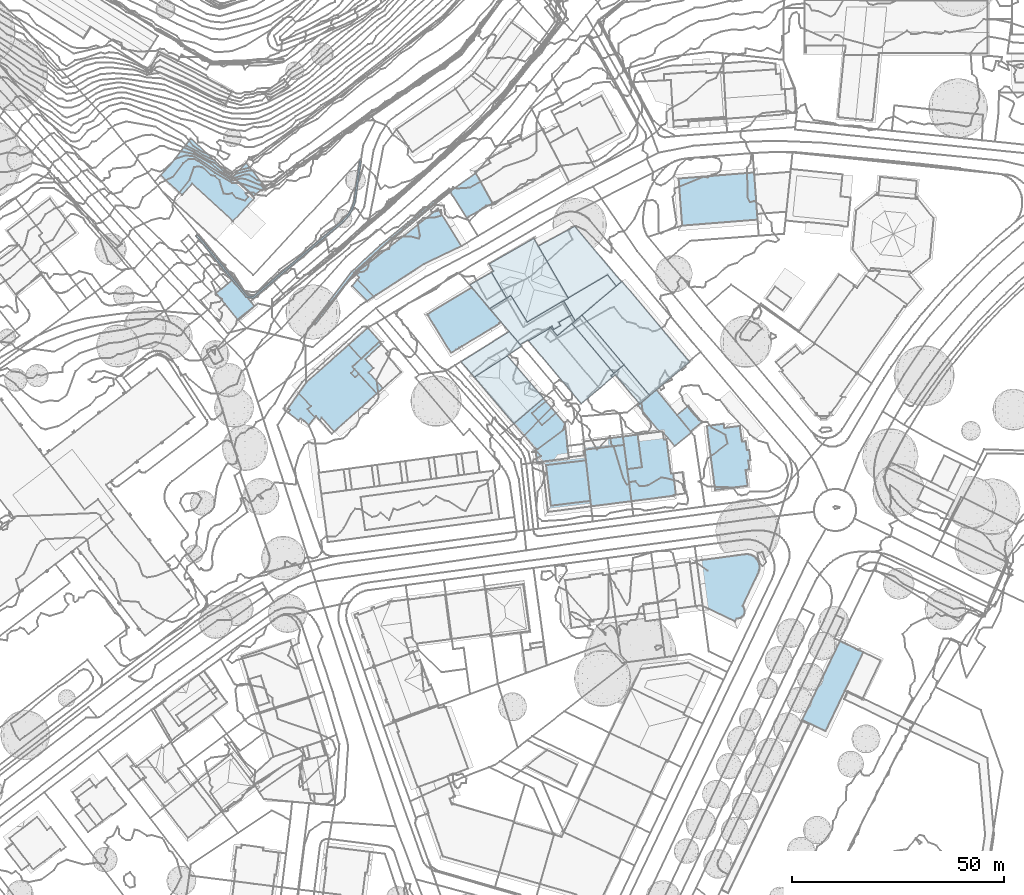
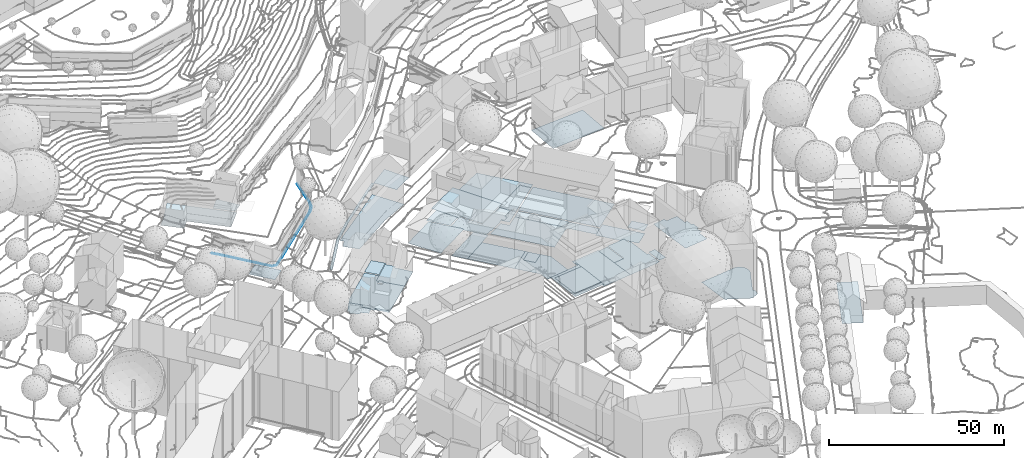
# Not in any storey, part 14 of 477: 22 footings.
"""IFC4 building model written with IfcOpenShell, lengths in metres."""

import ifcopenshell
import ifcopenshell.guid

model = None  # the IFC model being written
_history = None  # IfcOwnerHistory: only IFC2X3 demands one
_inside = {}  # id of a spatial element -> (the spatial element, [elements in it])
_under = {}  # id of a project, library or spatial element -> (it, [spatial elements below it])
_declared = {}  # id of a project -> (the project, [libraries it declares])
_typed = {}  # id of a type object -> (the type object, [elements of that type])
_made_of = {}  # id of a material, layer set ... -> (it, [elements and type objects made of it])


def new_model(schema):
    """Start an empty IFC model of exactly this schema.

    Asked for "IFC4X3", IfcOpenShell would pick the latest addendum, in which some entities
    have other attributes; the version numbers below select the first issue.
    IFC2X3 requires an IfcOwnerHistory on every rooted entity: one is made here for all.
    """
    global model, _history
    if schema == "IFC4X3":
        model = ifcopenshell.file(schema_version=(4, 3, 0, 0))
    else:
        model = ifcopenshell.file(schema=schema)
    _inside.clear()
    _under.clear()
    _declared.clear()
    _typed.clear()
    _made_of.clear()
    _history = None
    if model.schema == "IFC2X3":
        org = make("IfcOrganization", Name="unknown")
        user = make(
            "IfcPersonAndOrganization",
            ThePerson=make("IfcPerson", FamilyName="unknown"),
            TheOrganization=org,
        )
        app = make(
            "IfcApplication",
            ApplicationDeveloper=org,
            Version="unknown",
            ApplicationFullName="unknown",
            ApplicationIdentifier="unknown",
        )
        _history = make(
            "IfcOwnerHistory",
            OwningUser=user,
            OwningApplication=app,
            ChangeAction="ADDED",
            CreationDate=0,
        )
    return model


def make(cls, **values):
    """One entity of the class cls with the attributes given. An attribute that is None is left unset."""
    return model.create_entity(
        cls, **{name: value for name, value in values.items() if value is not None}
    )


def rooted(cls, **values):
    """An entity with a GlobalId (a new one), such as an element, a storey or a relation."""
    return make(cls, GlobalId=ifcopenshell.guid.new(), OwnerHistory=_history, **values)


def si_unit(unit_type, name, prefix=None):
    """IfcSIUnit, for example si_unit("LENGTHUNIT", "METRE", prefix="MILLI")."""
    return make("IfcSIUnit", UnitType=unit_type, Prefix=prefix, Name=name)


def assignment(units):
    """IfcUnitAssignment: the units of a project."""
    return None if units is None else make("IfcUnitAssignment", Units=units)


def point(xyz):
    """IfcCartesianPoint."""
    return None if xyz is None else make("IfcCartesianPoint", Coordinates=xyz)


def direction(xyz):
    """IfcDirection."""
    return None if xyz is None else make("IfcDirection", DirectionRatios=xyz)


def frame(location, z_axis=None, x_axis=None):
    """IfcAxis2Placement3D, a coordinate frame: its origin and axes. An axis left out is left unset."""
    return make(
        "IfcAxis2Placement3D",
        Location=point(location),
        Axis=direction(z_axis),
        RefDirection=direction(x_axis),
    )


def origin_with_axes():
    """The frame at (0, 0, 0) with the z axis (0, 0, 1) and the x axis (1, 0, 0) written out."""
    return frame((0.0, 0.0, 0.0), z_axis=(0.0, 0.0, 1.0), x_axis=(1.0, 0.0, 0.0))


def place(relative_to, where):
    """IfcLocalPlacement: puts the frame where relative to a parent placement (None: the world)."""
    return make(
        "IfcLocalPlacement", PlacementRelTo=relative_to, RelativePlacement=where
    )


def context(
    kind, dimensions, precision=None, world=None, true_north=None, identifier=None
):
    """IfcGeometricRepresentationContext, for example the 3D "Model" context."""
    return make(
        "IfcGeometricRepresentationContext",
        ContextIdentifier=identifier,
        ContextType=kind,
        CoordinateSpaceDimension=dimensions,
        Precision=precision,
        WorldCoordinateSystem=world,
        TrueNorth=true_north,
    )


def subcontext(parent, identifier, kind, view, scale=None):
    """IfcGeometricRepresentationSubContext, for example "Body" below "Model"."""
    return make(
        "IfcGeometricRepresentationSubContext",
        ContextIdentifier=identifier,
        ContextType=kind,
        ParentContext=parent,
        TargetScale=scale,
        TargetView=view,
    )


def project(units=None, contexts=None):
    """IfcProject with its units and contexts."""
    return rooted(
        "IfcProject",
        Name="project",
        RepresentationContexts=contexts,
        UnitsInContext=assignment(units),
    )


def spatial(cls, under=None, at=None, **own):
    """A site, building, storey or space (cls), placed at a placement, below another one or the project."""
    s = rooted(cls, ObjectPlacement=at, **own)
    if under is not None:
        _under.setdefault(under.id(), (under, []))[1].append(s)
    return s


def point_list(points):
    """IfcCartesianPointList2D or 3D."""
    cls = (
        "IfcCartesianPointList2D" if len(points[0]) == 2 else "IfcCartesianPointList3D"
    )
    return make(cls, CoordList=points)


def polygons(points, faces, closed=None, point_numbers=None):
    """IfcPolygonalFaceSet: a face is its outer loop, then its inner loops; points numbered from 1."""
    made = []
    for loops in faces:
        if len(loops) == 1:
            made.append(make("IfcIndexedPolygonalFace", CoordIndex=loops[0]))
        else:
            made.append(
                make(
                    "IfcIndexedPolygonalFaceWithVoids",
                    CoordIndex=loops[0],
                    InnerCoordIndices=loops[1:],
                )
            )
    return make(
        "IfcPolygonalFaceSet",
        Coordinates=point_list(points),
        Closed=closed,
        Faces=made,
        PnIndex=point_numbers,
    )


def shape(context_of_items, identifier, shape_type, items):
    """IfcShapeRepresentation: the items that make up one representation, for example the "Body"."""
    return make(
        "IfcShapeRepresentation",
        ContextOfItems=context_of_items,
        RepresentationIdentifier=identifier,
        RepresentationType=shape_type,
        Items=items,
    )


def made_of(thing, what):
    """Note that an element or type object is made of a material, layer set ...; save() writes the relation."""
    if what is not None:
        _made_of.setdefault(what.id(), (what, []))[1].append(thing)
    return thing


def element(
    cls,
    number,
    at=None,
    inside=None,
    cuts=None,
    type_object=None,
    material=None,
    context=None,
    identifier="Body",
    shape_type=None,
    held_by="IfcProductDefinitionShape",
    body=None,
    shapes=None,
    **own,
):
    """One element of the class cls, such as IfcWall. Its Tag is "e" and its number.

    at: its placement. inside: the storey or other place that contains it. cuts: it is an
    opening in that element (IfcRelVoidsElement). A single representation is given by context,
    identifier, shape_type and body (its items); several are given by shapes. held_by: the class
    of the entity that holds the representations. save() writes the other relations.
    """
    e = rooted(cls, Tag="e%d" % number, ObjectPlacement=at, **own)
    if body is not None:
        shapes = [shape(context, identifier, shape_type, body)]
    if shapes is not None:
        e.Representation = make(held_by, Representations=shapes)
    if inside is not None:
        _inside.setdefault(inside.id(), (inside, []))[1].append(e)
    if cuts is not None:
        rooted(
            "IfcRelVoidsElement", RelatingBuildingElement=cuts, RelatedOpeningElement=e
        )
    if type_object is not None:
        _typed.setdefault(type_object.id(), (type_object, []))[1].append(e)
    return made_of(e, material)


def aggregate(whole, parts):
    """IfcRelAggregates: a whole, such as a stair, and the parts it consists of."""
    return rooted("IfcRelAggregates", RelatingObject=whole, RelatedObjects=parts)


def save(model, path):
    """Write the relations noted so far, then the file.

    IfcRelAggregates (storeys below a building ...), IfcRelContainedInSpatialStructure (elements
    in a storey), IfcRelDefinesByType, IfcRelAssociatesMaterial and IfcRelDeclares: one each for
    every whole, place, type object, material and project.
    """
    for whole, parts in _under.values():
        aggregate(whole, parts)
    for where, things in _inside.values():
        rooted(
            "IfcRelContainedInSpatialStructure",
            RelatedElements=things,
            RelatingStructure=where,
        )
    for kind, things in _typed.values():
        rooted("IfcRelDefinesByType", RelatedObjects=things, RelatingType=kind)
    for what, things in _made_of.values():
        rooted("IfcRelAssociatesMaterial", RelatedObjects=things, RelatingMaterial=what)
    for by, libraries in _declared.values():
        rooted("IfcRelDeclares", RelatingContext=by, RelatedDefinitions=libraries)
    model.write(path)


model = new_model("IFC4")

# Units and contexts
model_context = context("Model", 3, precision=1e-05, world=origin_with_axes())
body_context = subcontext(model_context, "Body", "Model", "MODEL_VIEW")
ifc_project = project(units=[si_unit("AREAUNIT", "SQUARE_METRE"), si_unit("LENGTHUNIT", "METRE")], contexts=[model_context])

# Sites, building
site_1_placement = place(None, origin_with_axes())
site_1 = spatial("IfcSite", under=ifc_project, at=site_1_placement, Name="Topoexport Site")
site_2_placement = place(site_1_placement, origin_with_axes())
site_2 = spatial("IfcSite", under=site_1, at=site_2_placement, Name="TPX_BUILDINGS")
building_1_placement = place(site_2_placement, frame((211.8297320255, 101.9383160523, 526.7541), z_axis=(0.0, 0.0, 1.0), x_axis=(1.0, 0.0, 0.0)))
building_1 = spatial("IfcBuilding", under=site_2, at=building_1_placement, Name="Building 18", CompositionType="ELEMENT")

# Footings
footing_1_placement = place(None, frame((211.8297320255, 101.9383160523, 526.7541), z_axis=(0.0, 0.0, 1.0), x_axis=(1.0, 0.0, 0.0)))
element("IfcFooting", 1, at=footing_1_placement, inside=building_1, Name="Floor 6", context=body_context, shape_type="Tessellation", body=[
    polygons([(249.8320000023, 131.75, -24.7557), (254.3800000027, 136.2890000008, -24.7557), (250.4350000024, 131.2080000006, -24.7557), (253.7380000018, 136.7811999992, -24.7557), (266.2190000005, 149.3291000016, -24.7556), (259.5580000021, 143.1543000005, -24.7556), (258.9550000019, 143.6981999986, -24.7556), (282.4279999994, 162.6162, -24.7556), (272.2770000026, 155.3280999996, -24.7556), (278.2740000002, 160.3418000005, -24.7556), (281.9240000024, 163.2490000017, -24.7556), (278.7850000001, 159.7148000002, -24.7556), (265.688000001, 149.9393999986, -24.7556), (272.7919999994, 154.7050999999, -24.7556)], [[[1, 2, 3]], [[1, 4, 2]], [[5, 6, 7]], [[4, 6, 2]], [[4, 7, 6]], [[8, 9, 10]], [[11, 8, 10]], [[12, 9, 8]], [[7, 13, 5]], [[9, 12, 13]], [[14, 5, 13]], [[12, 14, 13]]]),
])
footing_2_placement = place(None, frame((211.8297320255, 101.9383160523, 526.7541), z_axis=(0.0, 0.0, 1.0), x_axis=(1.0, 0.0, 0.0)))
element("IfcFooting", 2, at=footing_2_placement, inside=building_1, Name="Floor 22", context=body_context, shape_type="Tessellation", body=[
    polygons([(224.5700000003, 149.4979999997, -21.8519), (224.1130000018, 150.6992000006, -21.8519), (224.887000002, 149.7558000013, -21.8519), (223.8020000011, 150.4354999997, -21.8519), (230.3049999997, 142.3515000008, -21.8519), (222.6460000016, 152.3729999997, -21.8519), (222.3390000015, 152.1055000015, -21.8519), (234.1660000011, 137.6680000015, -21.8519), (235.6790000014, 137.8515000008, -21.8519), (235.8020000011, 137.4208999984, -21.8519), (234.381000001, 138.0487999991, -21.8519), (250.8890000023, 150.807599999, -21.8519), (251.1520000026, 150.495099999, -21.8519), (230.6209999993, 142.6094000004, -21.8519), (257.0040000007, 155.3935000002, -21.8519), (256.7200000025, 155.6875, -21.8519), (258.0700000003, 157.1942999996, -21.8519), (258.882000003, 158.6044999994, -21.8519), (258.4030000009, 156.9530999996, -21.8519), (259.2550000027, 158.433600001, -21.8519), (259.4840000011, 160.3339999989, -21.8519), (259.8830000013, 160.2391999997, -21.8519), (260.3660000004, 163.8740000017, -21.8519), (260.8489999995, 169.8828000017, -21.8519), (259.9620000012, 163.9316000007, -21.8519), (261.2530000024, 169.8222000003, -21.8519)], [[[1, 2, 3]], [[1, 4, 2]], [[3, 5, 1]], [[6, 2, 4]], [[4, 7, 6]], [[8, 9, 10]], [[8, 11, 9]], [[10, 12, 13]], [[11, 8, 14]], [[5, 3, 14]], [[10, 9, 12]], [[8, 5, 14]], [[15, 13, 16]], [[16, 17, 15]], [[13, 12, 16]], [[17, 18, 19]], [[19, 15, 17]], [[18, 20, 19]], [[21, 22, 20]], [[20, 18, 21]], [[21, 23, 22]], [[24, 23, 25]], [[23, 24, 26]], [[23, 21, 25]]]),
])

# Building
building_2_placement = place(site_2_placement, frame((552.1267320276, 177.5330160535, 499.9185), z_axis=(0.0, 0.0, 1.0), x_axis=(1.0, 0.0, 0.0)))
building_2 = spatial("IfcBuilding", under=site_2, at=building_2_placement, Name="Building 37", CompositionType="ELEMENT")

# Footing
footing_3_placement = place(None, frame((552.1267320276, 177.5330160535, 499.9185), z_axis=(0.0, 0.0, 1.0), x_axis=(1.0, 0.0, 0.0)))
element("IfcFooting", 3, at=footing_3_placement, inside=building_2, Name="Floor 0", context=body_context, shape_type="Tessellation", body=[
    polygons([(2.5260000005, -2.3779000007, 0.0), (0.0789999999, -0.563500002, 0.0), (5.9250000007, 0.7881000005, 0.0), (0.0, 0.0, 0.0), (0.4459999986, -3.3291000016, 0.0), (0.0789999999, -0.5859000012, 0.0), (1.4279999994, -10.6562000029, 0.0), (2.2459999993, -11.0516999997, 0.0), (13.0519999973, -5.8867000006, 0.0), (9.6290000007, 1.2793000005, 0.0), (11.2719999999, 1.498999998, 0.0), (14.1779999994, -3.5381000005, 0.0), (10.7780000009, -10.629900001, 0.0), (10.879999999, -10.7344000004, 0.0), (11.1559999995, -12.6357000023, -0.0001), (11.057, -10.9648000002, 0.0), (8.8770000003, -14.2539000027, -0.0001), (11.5439999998, 1.5312999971, 0.0), (11.818, 1.5400999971, 0.0), (11.1919999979, -11.2236000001, 0.0), (9.3559999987, -13.5976000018, -0.0001), (10.2159999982, -13.5029000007, -0.0001), (10.0779999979, -13.5478000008, -0.0001), (9.5009999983, -13.6123000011, -0.0001), (9.0099999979, -14.3183000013, -0.0001), (9.7919999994, -13.6055000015, -0.0001), (11.2949999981, -12.2226000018, -0.0001), (11.3239999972, -11.7871000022, 0.0), (11.3269999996, -11.933600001, 0.0), (11.2609999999, -12.3641999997, -0.0001), (10.7159999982, -13.2080000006, -0.0001), (10.4780000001, -13.3769000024, -0.0001), (11.0109999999, -12.8877000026, -0.0001), (10.8229999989, -13.1103000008, -0.0001), (11.2819999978, -11.4990000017, 0.0), (14.5260000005, -2.8115000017, 0.0), (12.0909999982, 1.5224999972, 0.0), (12.3609999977, 1.4814999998, 0.0), (12.6279999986, 1.4169999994, 0.0), (12.8869999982, 1.3280999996, 0.0), (13.2019999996, 1.1807000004, 0.0), (13.1369999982, 1.2157999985, 0.0), (13.6019999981, 0.927699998, 0.0), (13.8129999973, 0.753899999, 0.0), (13.3759999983, 1.0830000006, 0.0), (14.1840000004, 0.3525999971, 0.0), (14.3330000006, 0.1405999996, 0.0), (14.5729999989, -0.3144000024, 0.0), (14.0079999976, 0.5605999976, 0.0), (14.4619999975, -0.0810000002, 0.0), (14.7399999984, -2.1816000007, 0.0), (14.7630000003, -2.0780999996, 0.0), (14.7509999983, -0.8905999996, 0.0), (14.7049999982, -2.3291000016, 0.0), (14.6259999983, -2.5742000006, 0.0), (14.2989999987, -3.2842000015, 0.0), (14.6629999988, -0.5547000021, 0.0), (14.8039999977, -1.259800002, 0.0), (14.7339999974, -0.8027000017, 0.0), (14.7819999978, -1.0516999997, 0.0), (14.8159999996, -1.567400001, 0.0), (14.8000000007, -1.8242000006, 0.0), (14.8099999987, -1.3104999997, 0.0)], [[[1, 2, 3]], [[4, 3, 2]], [[1, 5, 6]], [[1, 7, 5]], [[8, 7, 1]], [[9, 8, 1]], [[3, 9, 1]], [[9, 3, 10]], [[10, 11, 12]], [[13, 14, 15]], [[16, 15, 14]], [[9, 13, 8]], [[13, 17, 8]], [[18, 19, 11]], [[20, 15, 16]], [[13, 21, 17]], [[22, 23, 13]], [[13, 24, 21]], [[21, 25, 17]], [[23, 26, 13]], [[26, 24, 13]], [[27, 15, 20]], [[28, 29, 27]], [[20, 28, 27]], [[30, 15, 27]], [[31, 32, 13]], [[15, 33, 34]], [[13, 34, 31]], [[13, 15, 34]], [[22, 13, 32]], [[28, 20, 35]], [[36, 19, 37]], [[36, 37, 38]], [[36, 39, 40]], [[36, 38, 39]], [[41, 40, 42]], [[43, 44, 45]], [[41, 45, 36]], [[45, 44, 46]], [[46, 36, 45]], [[47, 48, 46]], [[44, 49, 46]], [[40, 41, 36]], [[50, 48, 47]], [[36, 46, 51]], [[46, 52, 51]], [[48, 53, 52]], [[54, 55, 51]], [[9, 10, 12]], [[56, 19, 36]], [[56, 12, 11]], [[51, 55, 36]], [[48, 52, 46]], [[53, 48, 57]], [[52, 53, 58]], [[53, 57, 59]], [[53, 60, 58]], [[52, 61, 62]], [[63, 61, 58]], [[58, 61, 52]], [[19, 56, 11]]]),
])

# Building
building_3_placement = place(site_2_placement, frame((498.6247320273, 242.5555160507, 500.7935), z_axis=(0.0, 0.0, 1.0), x_axis=(1.0, 0.0, 0.0)))
building_3 = spatial("IfcBuilding", under=site_2, at=building_3_placement, Name="Building 78", CompositionType="ELEMENT")

# Footing
footing_4_placement = place(None, frame((498.6247320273, 242.5555160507, 500.7935), z_axis=(0.0, 0.0, 1.0), x_axis=(1.0, 0.0, 0.0)))
element("IfcFooting", 4, at=footing_4_placement, inside=building_3, Name="Floor 0", context=body_context, shape_type="Tessellation", body=[
    polygons([(18.7349999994, -10.3310999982, -0.6109), (13.5709999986, -8.7636999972, -0.6109), (18.6279999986, -10.191399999, -0.6109), (22.1109999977, -3.7314999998, -0.6109), (19.3709999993, -9.7636999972, -0.6109), (20.9739999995, -8.8407999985, -0.6109), (21.4030000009, -9.5859999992, -0.6109), (19.8000000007, -10.5088, -0.6109), (24.0399999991, -7.0761999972, -0.6109), (11.9100000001, -14.0595999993, -0.6109), (4.7369999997, -5.5927999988, -0.6109), (13.7329999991, -13.0097999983, -0.6109), (13.8579999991, -13.1591999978, -0.6109), (9.6979999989, -2.5058999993, -0.6109), (4.5920000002, 4.933600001, -0.3969), (15.112999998, 10.9550999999, -0.3969), (5.5850000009, 3.1972000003, -0.3969), (23.2469999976, -3.1708999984, -0.397), (22.1109999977, -3.7314999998, -0.397), (22.1510000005, -3.8017999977, -0.397), (9.6979999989, -2.5058999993, -0.3969), (8.6909999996, -3.1327999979, -0.3969), (5.1400000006, 2.942400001, -0.3969), (13.5709999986, -8.7636999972, -0.397), (5.1400000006, 2.942400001, 0.0), (4.7369999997, -5.5927999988, 0.0), (0.0, 0.0, 0.0), (8.6909999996, -3.1327999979, 0.0)], [[[1, 2, 3]], [[4, 5, 2]], [[6, 7, 5]], [[8, 5, 7]], [[6, 4, 9]], [[5, 3, 2]], [[10, 11, 12]], [[13, 12, 2]], [[5, 4, 6]], [[12, 11, 2]], [[14, 2, 11]], [[1, 13, 2]], [[15, 16, 17]], [[18, 19, 16]], [[18, 20, 19]], [[21, 16, 19]], [[17, 22, 23]], [[21, 19, 24]], [[22, 17, 21]], [[21, 17, 16]], [[25, 26, 27]], [[26, 25, 28]]]),
])

# Building
building_4_placement = place(site_2_placement, frame((509.0277320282, 209.8641160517, 500.1695), z_axis=(0.0, 0.0, 1.0), x_axis=(1.0, 0.0, 0.0)))
building_4 = spatial("IfcBuilding", under=site_2, at=building_4_placement, Name="Building 79", CompositionType="ELEMENT")

# Footing
footing_5_placement = place(None, frame((509.0277320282, 209.8641160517, 500.1695), z_axis=(0.0, 0.0, 1.0), x_axis=(1.0, 0.0, 0.0)))
element("IfcFooting", 5, at=footing_5_placement, inside=building_4, Name="Floor 0", context=body_context, shape_type="Tessellation", body=[
    polygons([(9.9829999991, 2.4756000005, -0.036), (6.6600000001, -0.3438000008, -0.036), (8.7029999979, 3.9756000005, -0.036), (7.5979999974, 5.2714000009, -0.036), (4.2829999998, 2.4598999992, -0.036), (7.5979999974, 5.2714000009, 0.0), (4.2829999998, 2.4598999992, 0.0), (6.993999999, 5.9794999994, 0.0), (3.3189999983, 2.8379000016, 0.0), (9.9829999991, 2.4756000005, 0.0), (12.0689999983, 0.0302000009, 0.0), (6.6600000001, -0.3438000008, 0.0), (0.0, 0.0, 0.0), (0.9890000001, 0.8456999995, 0.0), (4.9479999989, -5.8213, 0.0), (5.0979999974, -5.9970999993, 0.0), (12.9749999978, -8.1699999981, 0.0), (11.2359999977, -8.3993999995, 0.0), (7.9239999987, -8.8359999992, 0.0), (5.6979999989, -9.128899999, 0.0), (5.4809999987, -9.1572999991, 0.0), (6.435999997, -9.0313000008, 0.0), (5.7249999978, -9.3515999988, 0.0), (5.5069999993, -9.3759999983, 0.0)], [[[1, 2, 3]], [[3, 2, 4]], [[2, 5, 4]], [[6, 7, 8]], [[7, 9, 8]], [[10, 11, 12]], [[13, 14, 15]], [[15, 14, 12]], [[14, 9, 7]], [[12, 14, 7]], [[12, 16, 15]], [[17, 18, 12]], [[19, 16, 18]], [[18, 16, 12]], [[20, 21, 16]], [[16, 22, 20]], [[20, 23, 21]], [[21, 23, 24]], [[19, 22, 16]], [[12, 11, 17]]]),
])

# Building
building_5_placement = place(site_2_placement, frame((512.3577320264, 229.5457160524, 499.1847), z_axis=(0.0, 0.0, 1.0), x_axis=(1.0, 0.0, 0.0)))
building_5 = spatial("IfcBuilding", under=site_2, at=building_5_placement, Name="Building 80", CompositionType="ELEMENT")

# Footing
footing_6_placement = place(None, frame((512.3577320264, 229.5457160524, 499.1847), z_axis=(0.0, 0.0, 1.0), x_axis=(1.0, 0.0, 0.0)))
element("IfcFooting", 6, at=footing_6_placement, inside=building_5, Name="Floor 0", context=body_context, shape_type="Tessellation", body=[
    polygons([(20.5769999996, -8.1981999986, -0.2251), (19.5500000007, -8.4013999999, -0.225), (22.6040000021, -5.8291000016, -0.225), (22.0139999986, -9.9072000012, -0.2251), (19.8770000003, -8.7890999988, -0.2251), (28.6840000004, -13.0458999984, -0.2251), (26.3229999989, -15.0322000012, -0.2251), (28.6840000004, -13.0458999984, 0.2619), (22.9970000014, -6.2949000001, 0.2619), (33.3579999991, -9.1152000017, 0.2619), (35.0989999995, -1.5947000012, 0.2619), (22.6040000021, -5.8291000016, 0.2619), (32.1220000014, 1.9580000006, 0.2619), (38.0760000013, -5.1475000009, 0.2619), (17.3909999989, 9.8418000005, 0.2619), (22.0749999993, 13.6963, 0.2619), (22.0300000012, 13.7490000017, 0.2619), (22.1979999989, 13.7987999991, 0.2619), (12.7190000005, 5.9063000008, 0.2619), (17.3909999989, 9.8418000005, 1.1238), (18.7419999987, 15.3828000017, 1.1239), (20.8209999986, 12.7314000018, 1.1238), (9.5139999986, 9.8388999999, 1.1239), (9.4670000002, 9.9199000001, 1.1239), (10.307, 5.933600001, 1.1238), (12.7190000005, 5.9063000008, 1.1238), (11.1059999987, 4.5478999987, 1.1238), (9.9090000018, 5.7050999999, 1.1238), (8.0230000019, 8.9814000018, 1.1239), (2.4330000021, 22.1367000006, 1.1869), (18.7419999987, 15.3828000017, 1.1868), (9.4670000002, 9.9199000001, 1.1868), (11.0240000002, 26.817400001, 1.1869), (22.0300000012, 13.7490000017, 1.1868), (20.8209999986, 12.7314000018, 1.1868), (12.7190000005, 5.9063000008, -0.032), (20.2410000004, -7.8192999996, -0.0321), (10.3460000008, 3.9072000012, -0.032), (22.6040000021, -5.8291000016, -0.0321), (20.5769999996, -8.1981999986, -0.0321), (20.6440000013, -8.2773000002, -0.0321), (20.5670000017, -8.2060000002, -0.0321), (11.1059999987, 4.5478999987, 1.0359), (7.6700000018, 3.4237999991, 1.0359), (10.307, 5.933600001, 1.0359), (6.9270000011, 1.0273000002, 1.0359), (6.0670000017, 2.5009999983, 1.0359), (5.2470000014, 3.0214999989, 1.0359), (5.6380000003, 3.246100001, 1.0359), (7.2410000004, 4.1689000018, 1.0359), (6.9270000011, 1.0273000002, -0.002), (12.550999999, -14.9756000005, -0.0001), (0.0, 0.0, 0.0), (5.2470000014, 3.0214999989, 0.0), (19.5500000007, -8.4013999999, -0.0021), (10.3460000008, 3.9072000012, -0.002), (16.8289999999, -11.3632999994, -0.0021), (19.8770000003, -8.7890999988, -0.0021), (20.2410000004, -7.8192999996, -0.0021)], [[[1, 2, 3]], [[3, 4, 1]], [[2, 1, 5]], [[3, 6, 4]], [[7, 4, 6]], [[8, 9, 10]], [[9, 11, 10]], [[9, 12, 13]], [[14, 10, 11]], [[11, 9, 13]], [[12, 15, 13]], [[15, 16, 13]], [[17, 16, 15]], [[13, 16, 18]], [[19, 15, 12]], [[20, 21, 22]], [[23, 24, 21]], [[23, 21, 25]], [[20, 25, 21]], [[26, 27, 25]], [[28, 29, 23]], [[25, 28, 23]], [[20, 26, 25]], [[30, 31, 32]], [[30, 33, 31]], [[34, 35, 31]], [[31, 33, 34]], [[36, 37, 38]], [[37, 36, 39]], [[40, 41, 42]], [[43, 44, 45]], [[46, 47, 44]], [[44, 43, 46]], [[46, 48, 47]], [[47, 48, 49]], [[50, 45, 44]], [[51, 52, 53]], [[53, 54, 51]], [[55, 51, 56]], [[52, 51, 57]], [[55, 58, 57]], [[51, 55, 57]], [[55, 56, 59]]]),
])

# Building
building_6_placement = place(site_2_placement, frame((525.5527320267, 205.6209160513, 499.3996), z_axis=(0.0, 0.0, 1.0), x_axis=(1.0, 0.0, 0.0)))
building_6 = spatial("IfcBuilding", under=site_2, at=building_6_placement, Name="Building 81", CompositionType="ELEMENT")

# Footing
footing_7_placement = place(None, frame((525.5527320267, 205.6209160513, 499.3996), z_axis=(0.0, 0.0, 1.0), x_axis=(1.0, 0.0, 0.0)))
element("IfcFooting", 7, at=footing_7_placement, inside=building_6, Name="Floor 0", context=body_context, shape_type="Tessellation", body=[
    polygons([(9.4659999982, -0.8192999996, 0.0), (0.0, 0.0, 0.0), (9.2019999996, 1.1709000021, 0.0), (0.2149999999, -1.9267999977, 0.0), (9.4659999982, -0.8192999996, 0.005), (10.3379999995, -7.3817999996, 0.005), (0.2149999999, -1.9267999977, 0.005), (0.9470000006, -8.5067999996, 0.005), (11.2259999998, -14.0683999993, 0.005), (1.7030000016, -15.2881000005, 0.005)], [[[1, 2, 3]], [[2, 1, 4]], [[5, 6, 7]], [[7, 6, 8]], [[9, 10, 8]], [[6, 9, 8]]]),
])

# Building
building_7_placement = place(site_2_placement, frame((514.7257320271, 200.7361160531, 500.1685), z_axis=(0.0, 0.0, 1.0), x_axis=(1.0, 0.0, 0.0)))
building_7 = spatial("IfcBuilding", under=site_2, at=building_7_placement, Name="Building 82", CompositionType="ELEMENT")

# Footing
footing_8_placement = place(None, frame((514.7257320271, 200.7361160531, 500.1685), z_axis=(0.0, 0.0, 1.0), x_axis=(1.0, 0.0, 0.0)))
element("IfcFooting", 8, at=footing_8_placement, inside=building_7, Name="Floor 0", context=body_context, shape_type="Tessellation", body=[
    polygons([(2.3530000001, -11.7098999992, 0.0), (3.057, -10.2334000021, 0.0), (6.5789999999, -11.1669999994, 0.0), (2.3220000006, -11.4365000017, 0.0), (1.0610000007, -0.1093000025, 0.0), (12.3869999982, -9.1162, 0.0), (12.5300000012, -10.4033000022, 0.0), (7.2769999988, 0.9580000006, 0.0), (11.3220000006, 0.4316999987, 0.0), (1.9140000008, -0.6953000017, 0.0), (0.0269999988, -0.2246000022, 0.0), (0.0, 0.0, 0.0), (1.0760000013, 0.1415999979, 0.0), (10.8610000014, 1.5976999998, 0.0), (7.2529999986, 1.1455000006, 0.0), (10.7399999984, 2.6855999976, 0.0), (11.068, 2.7245999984, 0.0), (3.057, -10.2334000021, 0.053), (11.8409999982, -4.2168000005, 0.053), (12.3869999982, -9.1162, 0.053), (1.9140000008, -0.6953000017, 0.053), (11.3220000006, 0.4316999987, 0.053)], [[[1, 2, 3]], [[2, 4, 5]], [[2, 1, 4]], [[6, 3, 2]], [[6, 7, 3]], [[8, 9, 10]], [[11, 12, 5]], [[2, 5, 10]], [[13, 5, 12]], [[8, 10, 13]], [[14, 9, 15]], [[16, 17, 14]], [[17, 9, 14]], [[9, 8, 15]], [[10, 5, 13]], [[18, 19, 20]], [[21, 22, 19]], [[19, 18, 21]]]),
])

# Building
building_8_placement = place(site_2_placement, frame((547.5217320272, 211.8914160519, 499.8985), z_axis=(0.0, 0.0, 1.0), x_axis=(1.0, 0.0, 0.0)))
building_8 = spatial("IfcBuilding", under=site_2, at=building_8_placement, Name="Building 83", CompositionType="ELEMENT")

# Footing
footing_9_placement = place(None, frame((547.5217320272, 211.8914160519, 499.8985), z_axis=(0.0, 0.0, 1.0), x_axis=(1.0, 0.0, 0.0)))
element("IfcFooting", 9, at=footing_9_placement, inside=building_8, Name="Floor 0", context=body_context, shape_type="Tessellation", body=[
    polygons([(3.1939999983, -3.8847999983, 0.0), (0.0, 0.0, 0.0), (5.8509999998, -1.6992000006, 0.0), (2.6569999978, 2.1856000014, 0.0)], [[[1, 2, 3]], [[4, 3, 2]]]),
])

# Building
building_9_placement = place(site_2_placement, frame((534.7547320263, 206.7918160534, 499.1526), z_axis=(0.0, 0.0, 1.0), x_axis=(1.0, 0.0, 0.0)))
building_9 = spatial("IfcBuilding", under=site_2, at=building_9_placement, Name="Building 84", CompositionType="ELEMENT")

# Footing
footing_10_placement = place(None, frame((534.7547320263, 206.7918160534, 499.1526), z_axis=(0.0, 0.0, 1.0), x_axis=(1.0, 0.0, 0.0)))
element("IfcFooting", 10, at=footing_10_placement, inside=building_9, Name="Floor 0", context=body_context, shape_type="Tessellation", body=[
    polygons([(1.0230000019, -7.7012000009, 0.0), (3.4640000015, 0.4452999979, 0.0), (4.4849999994, -7.2412, 0.0), (0.0, 0.0, 0.0), (12.4660000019, -13.7118999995, 0.7669), (14.0639999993, -8.4043000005, 0.7669), (14.7080000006, -13.4238000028, 0.7669), (11.8640000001, -8.6875, 0.7669), (12.4660000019, -13.7118999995, 0.252), (11.3170000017, -8.7578000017, 0.252), (11.8640000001, -8.6875, 0.252), (11.9609999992, -13.7773000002, 0.252), (11.6950000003, -13.9932000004, 0.252), (9.6669999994, -0.7021000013, 0.252), (10.0350000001, -0.6553000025, 0.252), (10.2719999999, -0.6240000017, 0.252), (11.9840000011, -13.9561000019, 0.252), (4.4849999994, -7.2412, 0.252), (2.0240000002, -15.2393000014, 0.252), (1.0230000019, -7.7012000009, 0.252), (3.6799999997, -1.1797000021, 0.252), (9.3420000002, 1.2011999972, 0.247), (9.5300000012, 0.1006000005, 0.252), (3.4640000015, 0.4452999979, 0.247), (3.7320000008, -1.5742000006, 0.249)], [[[1, 2, 3]], [[2, 1, 4]], [[5, 6, 7]], [[6, 5, 8]], [[9, 10, 11]], [[12, 10, 9]], [[10, 12, 13]], [[10, 14, 15]], [[16, 10, 15]], [[17, 13, 12]], [[14, 10, 18]], [[13, 19, 18]], [[18, 19, 20]], [[21, 22, 23]], [[23, 14, 21]], [[24, 22, 21]], [[21, 14, 25]], [[18, 25, 14]], [[10, 13, 18]]]),
])

# Building
building_10_placement = place(site_2_placement, frame((538.2627320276, 214.1619160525, 498.9856), z_axis=(0.0, 0.0, 1.0), x_axis=(1.0, 0.0, 0.0)))
building_10 = spatial("IfcBuilding", under=site_2, at=building_10_placement, Name="Building 85", CompositionType="ELEMENT")

# Footing
footing_11_placement = place(None, frame((538.2627320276, 214.1619160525, 498.9856), z_axis=(0.0, 0.0, 1.0), x_axis=(1.0, 0.0, 0.0)))
element("IfcFooting", 11, at=footing_11_placement, inside=building_10, Name="Floor 0", context=body_context, shape_type="Tessellation", body=[
    polygons([(5.8339999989, -6.1689000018, 0.0), (5.1739999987, -6.253899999, 0.0), (0.0, 0.0, 0.0), (4.3709999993, 3.6757999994, 0.0), (12.6369999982, -6.378899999, 0.0), (8.699000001, -9.6191000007, 0.0)], [[[1, 2, 3]], [[3, 4, 1]], [[5, 6, 1]], [[1, 4, 5]]]),
])

# Building
building_11_placement = place(site_2_placement, frame((496.6027320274, 224.4773160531, 500.1476), z_axis=(0.0, 0.0, 1.0), x_axis=(1.0, 0.0, 0.0)))
building_11 = spatial("IfcBuilding", under=site_2, at=building_11_placement, Name="Building 86", CompositionType="ELEMENT")

# Footing
footing_12_placement = place(None, frame((496.6027320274, 224.4773160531, 500.1476), z_axis=(0.0, 0.0, 1.0), x_axis=(1.0, 0.0, 0.0)))
element("IfcFooting", 12, at=footing_12_placement, inside=building_11, Name="Floor 0", context=body_context, shape_type="Tessellation", body=[
    polygons([(10.8440000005, 1.4199999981, 0.0), (3.1209999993, -3.6709000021, 0.0), (0.0, 0.0, 0.0), (11.3509999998, 7.0665000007, 0.0), (10.8959999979, 1.3594000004, 0.0), (14.2529999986, 3.6387000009, 0.0), (15.743999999, -11.7752999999, 0.0219), (12.6329999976, -14.4345000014, 0.0219), (3.1209999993, -3.6709000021, 0.022), (10.8959999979, 1.3594000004, 0.022), (19.4189999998, -8.633700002, 0.0219), (12.4250000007, -14.6123000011, 0.0219)], [[[1, 2, 3]], [[3, 4, 1]], [[1, 5, 2]], [[1, 4, 6]], [[7, 8, 9]], [[7, 10, 11]], [[12, 9, 8]], [[9, 10, 7]]]),
])

# Building
building_12_placement = place(site_2_placement, frame((488.6637320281, 235.6004160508, 500.5996), z_axis=(0.0, 0.0, 1.0), x_axis=(1.0, 0.0, 0.0)))
building_12 = spatial("IfcBuilding", under=site_2, at=building_12_placement, Name="Building 87", CompositionType="ELEMENT")

# Footing
footing_13_placement = place(None, frame((488.6637320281, 235.6004160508, 500.5996), z_axis=(0.0, 0.0, 1.0), x_axis=(1.0, 0.0, 0.0)))
element("IfcFooting", 13, at=footing_13_placement, inside=building_12, Name="Floor 0", context=body_context, shape_type="Tessellation", body=[
    polygons([(0.2669999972, -0.431599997, 0.0), (10.4849999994, 6.3359000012, 0.0), (3.6600000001, -5.9403999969, -0.0001), (0.0, 0.0, 0.0), (6.4139999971, 3.876000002, 0.0), (5.5909999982, -9.0761999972, -0.0001), (6.7960000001, -8.3486000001, -0.0001), (7.5289999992, -7.9052999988, -0.0001), (8.1730000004, -7.5165999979, -0.0001), (11.7060000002, -5.3847999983, -0.0001), (17.4029999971, -1.8290999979, -0.0001), (16.8889999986, -2.1386999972, -0.0001), (15.0130000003, -3.3876999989, -0.0001), (16.9409999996, -2.2245999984, -0.0001)], [[[1, 2, 3]], [[1, 4, 5]], [[6, 3, 7]], [[7, 3, 8]], [[8, 3, 9]], [[3, 2, 10]], [[2, 11, 12]], [[2, 12, 13]], [[10, 9, 3]], [[12, 14, 13]], [[2, 13, 10]], [[1, 5, 2]]]),
])

# Building
building_13_placement = place(site_2_placement, frame((554.542732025, 209.2947160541, 500.1665), z_axis=(0.0, 0.0, 1.0), x_axis=(1.0, 0.0, 0.0)))
building_13 = spatial("IfcBuilding", under=site_2, at=building_13_placement, Name="Building 88", CompositionType="ELEMENT")

# Footing
footing_14_placement = place(None, frame((554.542732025, 209.2947160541, 500.1665), z_axis=(0.0, 0.0, 1.0), x_axis=(1.0, 0.0, 0.0)))
element("IfcFooting", 14, at=footing_14_placement, inside=building_13, Name="Floor 0", context=body_context, shape_type="Tessellation", body=[
    polygons([(3.8100000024, -14.8584000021, 0.0), (0.8530000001, -6.8906000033, 0.0), (4.3740000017, -14.7842000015, 0.0), (6.8150000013, -14.4687000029, 0.0), (5.5360000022, -14.6338, 0.0), (9.1190000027, -10.3896000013, 0.0), (1.9290000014, -15.1006000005, 0.0), (7.3859999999, -14.3955000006, 0.0), (9.6060000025, -14.1084000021, 0.0), (9.7320000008, -8.1513000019, 0.0), (10.0100000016, -10.2734000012, 0.0), (9.9539999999, -5.6728000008, 0.0), (10.251000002, -8.0830000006, 0.0), (9.4160000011, -5.7441000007, 0.0), (8.2460000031, -3.7392000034, 0.0), (1.949000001, 0.2402999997, 0.0), (4.0899999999, -0.5019000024, 0.0), (0.1340000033, -1.0215000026, 0.0), (0.0840000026, -1.0273000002, 0.0), (0.0, 0.0, 0.0), (3.9600000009, 0.4882999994, 0.0), (9.1380000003, -3.6220000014, 0.0), (8.2149999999, -3.5039000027, 0.0), (5.8390000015, -0.2734000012, 0.0), (8.0240000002, -2.0400000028, 0.0), (7.7590000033, -0.0215000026, 0.0)], [[[1, 2, 3]], [[4, 5, 6]], [[2, 5, 3]], [[2, 1, 7]], [[5, 2, 6]], [[8, 6, 9]], [[10, 11, 6]], [[10, 12, 13]], [[8, 4, 6]], [[10, 6, 14]], [[14, 12, 10]], [[6, 2, 15]], [[16, 17, 2]], [[2, 18, 16]], [[19, 18, 2]], [[15, 2, 17]], [[16, 18, 20]], [[17, 16, 21]], [[15, 22, 14]], [[15, 14, 6]], [[23, 15, 24]], [[25, 23, 24]], [[24, 26, 25]], [[15, 17, 24]]]),
])

# Building
building_14_placement = place(site_2_placement, frame((455.8447320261, 213.3826160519, 501.6645), z_axis=(0.0, 0.0, 1.0), x_axis=(1.0, 0.0, 0.0)))
building_14 = spatial("IfcBuilding", under=site_2, at=building_14_placement, Name="Building 105", CompositionType="ELEMENT")

# Footing
footing_15_placement = place(None, frame((455.8447320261, 213.3826160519, 501.6645), z_axis=(0.0, 0.0, 1.0), x_axis=(1.0, 0.0, 0.0)))
element("IfcFooting", 15, at=footing_15_placement, inside=building_14, Name="Floor 0", context=body_context, shape_type="Tessellation", body=[
    polygons([(23.1070000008, 12.9658000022, -0.623), (20.9640000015, 3.5791000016, -0.623), (15.1530000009, 9.8632999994, -0.623), (21.6680000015, 15.5527999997, -0.623), (26.618999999, 8.6055000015, -0.623), (21.6150000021, 15.8379000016, -0.623), (21.7829999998, 15.6572000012, -0.623), (23.5980000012, 13.4081999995, -0.623), (16.6270000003, 12.5205000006, -0.301), (18.9400000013, 18.938500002, -0.304), (21.6150000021, 15.8379000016, -0.304), (17.2719999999, 11.822300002, -0.304), (17.7190000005, 12.2362999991, -0.301), (14.2829999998, 15.0547000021, -0.304), (21.7329999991, 15.8330000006, -0.304), (21.8430000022, 15.7109999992, -0.304), (21.7829999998, 15.6572000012, -0.304), (18.811999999, 19.0800999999, -0.304), (7.943, -2.1805999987, -0.383), (10.8940000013, -5.3720000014, -0.383), (7.4279999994, -2.6581999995, -0.383), (10.3249999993, -5.8779000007, -0.383), (2.4530000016, -2.9120999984, -0.0001), (0.4869999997, -0.3984000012, 0.0), (2.9230000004, -2.3134999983, -0.0001), (3.7459999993, -2.9609000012, -0.0001), (6.3650000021, -2.0507999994, -0.0001), (4.879999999, -3.8524999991, -0.0001), (4.5920000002, -0.1327999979, 0.0), (0.0030000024, -0.9853000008, 0.0), (0.0, 0.0, 0.0), (0.1500000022, 0.2353999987, 0.0), (0.2950000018, 0.4600000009, 0.0), (2.5340000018, 3.6689999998, 0.0), (5.3770000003, 0.5938000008, 0.0), (14.2829999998, 15.0547000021, -0.601), (15.1530000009, 9.8632999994, -0.601), (11.2019999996, 12.316399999, -0.601), (7.868999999, 9.3544999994, -0.601), (17.2719999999, 11.822300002, -0.601), (14.8150000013, 8.4092000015, -0.601), (5.3770000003, 0.5938000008, -0.601), (4.6510000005, 6.4932000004, -0.601), (4.2650000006, 6.1504000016, -0.601), (2.5340000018, 3.6689999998, -0.601), (4.5920000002, -0.1327999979, -0.601), (6.6119999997, -1.7509999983, -0.601), (15.7219999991, 9.2481000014, -0.601), (16.6730000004, 8.2188000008, -0.601), (20.0399999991, 2.7578000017, -0.601), (15.7659999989, 7.379900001, -0.601), (7.943, -2.1805999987, -0.601), (17.175999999, 0.2109999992, -0.601), (20.9640000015, 3.5791000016, -0.601), (16.5760000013, -0.3222000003, -0.601), (7.4279999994, -2.6581999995, -0.601), (6.3650000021, -2.0507999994, -0.601), (13.4890000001, -3.0643999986, -0.601), (10.8940000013, -5.3720000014, -0.601), (14.8150000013, 8.4092000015, -0.301), (16.6730000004, 8.2188000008, -0.301), (15.7659999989, 7.379900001, -0.301), (15.7219999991, 9.2481000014, -0.301)], [[[1, 2, 3]], [[3, 4, 1]], [[2, 1, 5]], [[6, 7, 4]], [[4, 3, 6]], [[8, 1, 4]], [[9, 10, 11]], [[12, 9, 13]], [[13, 9, 11]], [[14, 10, 9]], [[11, 10, 15]], [[15, 16, 17]], [[11, 15, 17]], [[14, 18, 10]], [[19, 20, 21]], [[22, 21, 20]], [[23, 24, 25]], [[26, 27, 28]], [[25, 29, 26]], [[30, 24, 23]], [[31, 32, 24]], [[33, 24, 32]], [[29, 33, 34]], [[25, 24, 29]], [[29, 27, 26]], [[24, 33, 29]], [[35, 29, 34]], [[36, 37, 38]], [[38, 37, 39]], [[37, 36, 40]], [[41, 39, 37]], [[39, 42, 43]], [[43, 42, 44]], [[45, 44, 42]], [[46, 42, 47]], [[39, 41, 42]], [[41, 37, 48]], [[49, 50, 51]], [[51, 52, 42]], [[53, 51, 50]], [[50, 49, 54]], [[51, 53, 55]], [[52, 47, 42]], [[47, 52, 56]], [[46, 47, 57]], [[52, 58, 59]], [[52, 55, 58]], [[55, 52, 51]], [[51, 42, 41]], [[60, 61, 62]], [[61, 60, 63]]]),
])

# Building
building_15_placement = place(site_2_placement, frame((438.9327320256, 240.6023160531, 504.1533), z_axis=(0.0, 0.0, 1.0), x_axis=(1.0, 0.0, 0.0)))
building_15 = spatial("IfcBuilding", under=site_2, at=building_15_placement, Name="Building 106", CompositionType="ELEMENT")

# Footing
footing_16_placement = place(None, frame((438.9327320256, 240.6023160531, 504.1533), z_axis=(0.0, 0.0, 1.0), x_axis=(1.0, 0.0, 0.0)))
element("IfcFooting", 16, at=footing_16_placement, inside=building_15, Name="Floor 0", context=body_context, shape_type="Tessellation", body=[
    polygons([(3.887000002, 3.1845999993, 0.0), (9.0270000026, -3.0410000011, 0.0), (0.0, 0.0, 0.0), (5.0720000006, -6.2041000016, 0.0)], [[[1, 2, 3]], [[4, 3, 2]]]),
])

# Building
building_16_placement = place(site_2_placement, frame((425.7767320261, 268.3191160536, 508.9989), z_axis=(0.0, 0.0, 1.0), x_axis=(1.0, 0.0, 0.0)))
building_16 = spatial("IfcBuilding", under=site_2, at=building_16_placement, Name="Building 107", CompositionType="ELEMENT")

# Footing
footing_17_placement = place(None, frame((425.7767320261, 268.3191160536, 508.9989), z_axis=(0.0, 0.0, 1.0), x_axis=(1.0, 0.0, 0.0)))
element("IfcFooting", 17, at=footing_17_placement, inside=building_16, Name="Floor 0", context=body_context, shape_type="Tessellation", body=[
    polygons([(7.1429999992, 8.7050999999, 0.0), (7.4890000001, -1.9912, -0.0001), (2.5460000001, 2.7441999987, 0.0), (5.0830000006, -4.6328000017, -0.0001), (0.0, 0.0, 0.0), (17.0710000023, -10.821200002, -0.0001), (22.1209999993, -5.3447000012, -0.0001)], [[[1, 2, 3]], [[3, 4, 5]], [[4, 3, 2]], [[6, 1, 7]], [[1, 6, 2]]]),
])

# Building
building_17_placement = place(site_2_placement, frame((442.9097320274, 267.9930160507, 509.1738), z_axis=(0.0, 0.0, 1.0), x_axis=(1.0, 0.0, 0.0)))
building_17 = spatial("IfcBuilding", under=site_2, at=building_17_placement, Name="Building 108", CompositionType="ELEMENT")

# Footing
footing_18_placement = place(None, frame((442.9097320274, 267.9930160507, 509.1738), z_axis=(0.0, 0.0, 1.0), x_axis=(1.0, 0.0, 0.0)))
element("IfcFooting", 18, at=footing_18_placement, inside=building_17, Name="Floor 0", context=body_context, shape_type="Tessellation", body=[
    polygons([(3.1079999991, 3.3779000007, 0.0), (4.7719999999, -4.5214999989, 0.0), (0.0, 0.0, 0.0), (7.5339999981, -2.4501999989, 0.0)], [[[1, 2, 3]], [[2, 1, 4]]]),
])

# Building
building_18_placement = place(site_2_placement, frame((547.8737320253, 267.5604160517, 499.9486), z_axis=(0.0, 0.0, 1.0), x_axis=(1.0, 0.0, 0.0)))
building_18 = spatial("IfcBuilding", under=site_2, at=building_18_placement, Name="Building 109", CompositionType="ELEMENT")

# Footing
footing_19_placement = place(None, frame((547.8737320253, 267.5604160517, 499.9486), z_axis=(0.0, 0.0, 1.0), x_axis=(1.0, 0.0, 0.0)))
element("IfcFooting", 19, at=footing_19_placement, inside=building_18, Name="Floor 0", context=body_context, shape_type="Tessellation", body=[
    polygons([(0.8170000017, -10.9189999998, 0.0), (0.0, 0.0, 0.0), (5.5540000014, -10.7177999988, 0.0), (7.6469999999, -10.5498999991, 0.0), (18.0810000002, -2.7382999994, 0.0), (0.8300000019, -11.0957999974, 0.0), (18.5820000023, -9.6767999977, 0.0), (18.4820000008, -8.2890999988, 0.0), (17.7800000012, 1.4237999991, 0.0), (17.9920000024, -1.5088, 0.0), (18.2400000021, -4.928799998, 0.0), (18.382000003, -6.9013999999, 0.0)], [[[1, 2, 3]], [[4, 2, 5]], [[1, 3, 6]], [[7, 4, 8]], [[4, 3, 2]], [[2, 9, 10]], [[2, 10, 5]], [[11, 4, 5]], [[4, 12, 8]], [[4, 11, 12]]]),
])

# Building
building_19_placement = place(site_2_placement, frame((470.9207320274, 242.2430160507, 501.6435), z_axis=(0.0, 0.0, 1.0), x_axis=(1.0, 0.0, 0.0)))
building_19 = spatial("IfcBuilding", under=site_2, at=building_19_placement, Name="Building 112", CompositionType="ELEMENT")

# Footing
footing_20_placement = place(None, frame((470.9207320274, 242.2430160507, 501.6435), z_axis=(0.0, 0.0, 1.0), x_axis=(1.0, 0.0, 0.0)))
element("IfcFooting", 20, at=footing_20_placement, inside=building_19, Name="Floor 0", context=body_context, shape_type="Tessellation", body=[
    polygons([(0.0, 0.0, 0.0), (1.2699999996, 1.5713, 0.0), (5.1559999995, -2.4404999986, 0.0), (3.5179999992, -3.4912, 0.0), (1.2699999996, 1.5713, -0.013), (1.6409999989, 2.0302000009, -0.013), (10.0469999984, 10.1718000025, -0.013), (13.8680000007, 3.2002000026, -0.013), (5.6640000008, -2.1142999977, -0.013), (5.1559999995, -2.4404999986, -0.013), (0.7089999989, 2.9443000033, -0.013), (17.0040000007, 5.2304000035, -0.013), (12.2729999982, 11.8955000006, -0.013), (19.9019999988, 17.9834000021, -0.013), (25.7829999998, 9.4521000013, -0.013), (20.2749999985, 18.2802000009, -0.013)], [[[1, 2, 3]], [[4, 1, 3]], [[5, 6, 7]], [[5, 7, 8]], [[9, 10, 5]], [[5, 8, 9]], [[11, 7, 6]], [[12, 8, 13]], [[13, 14, 15]], [[15, 14, 16]], [[13, 15, 12]], [[8, 7, 13]]]),
])

# Building
building_20_placement = place(site_2_placement, frame((494.0337320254, 264.5447160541, 502.2364), z_axis=(0.0, 0.0, 1.0), x_axis=(1.0, 0.0, 0.0)))
building_20 = spatial("IfcBuilding", under=site_2, at=building_20_placement, Name="Building 115", CompositionType="ELEMENT")

# Footing
footing_21_placement = place(None, frame((494.0337320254, 264.5447160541, 502.2364), z_axis=(0.0, 0.0, 1.0), x_axis=(1.0, 0.0, 0.0)))
element("IfcFooting", 21, at=footing_21_placement, inside=building_20, Name="Floor 0", context=body_context, shape_type="Tessellation", body=[
    polygons([(6.0700000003, 4.3662, 0.0), (4.325000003, -5.9463, 0.0), (0.0, 0.0, 0.0), (10.0240000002, -2.7998000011, 0.0), (4.3949999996, -6.0722000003, 0.0), (3.9730000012, -6.3047000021, 0.0)], [[[1, 2, 3]], [[1, 4, 2]], [[5, 6, 2]], [[6, 3, 2]]]),
])

# Building
building_21_placement = place(site_2_placement, frame((576.9417320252, 139.999816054, 499.5324), z_axis=(0.0, 0.0, 1.0), x_axis=(1.0, 0.0, 0.0)))
building_21 = spatial("IfcBuilding", under=site_2, at=building_21_placement, Name="Building 168", CompositionType="ELEMENT")

# Footing
footing_22_placement = place(None, frame((576.9417320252, 139.999816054, 499.5324), z_axis=(0.0, 0.0, 1.0), x_axis=(1.0, 0.0, 0.0)))
element("IfcFooting", 22, at=footing_22_placement, inside=building_21, Name="Floor 0", context=body_context, shape_type="Tessellation", body=[
    polygons([(2.893000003, -1.3857000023, 0.0), (1.6150000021, -0.7744000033, 0.0), (5.007000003, 10.4706999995, 0.0), (0.0, 0.0, 0.0), (11.6380000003, 10.1640999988, 0.0), (9.4790000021, 5.6454999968, 0.0), (11.7790000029, 17.2362999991, 0.0), (8.7360000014, 4.0917999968, 0.0), (7.3740000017, 1.2431999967, 0.0), (5.5170000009, -2.6425999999, 0.0), (12.7589999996, 16.7655999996, 0.0), (13.5360000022, 16.3935999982, 0.0), (10.4990000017, 17.8486000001, 0.0001), (9.6220000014, 18.2694999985, 0.0001), (8.9010000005, 18.615199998, 0.0001), (14.4150000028, 15.9726999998, 0.0)], [[[1, 2, 3]], [[4, 3, 2]], [[1, 5, 6]], [[3, 7, 1]], [[1, 6, 8]], [[1, 9, 10]], [[9, 1, 8]], [[1, 7, 5]], [[7, 11, 5]], [[11, 12, 5]], [[13, 3, 14]], [[3, 13, 7]], [[15, 14, 3]], [[5, 12, 16]]]),
])

save(model, "model.ifc")
